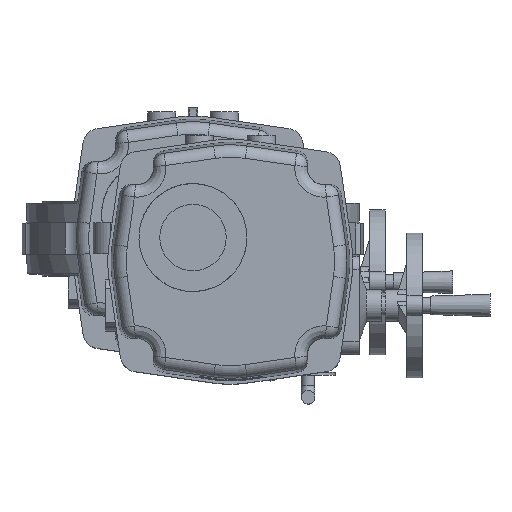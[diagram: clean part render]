
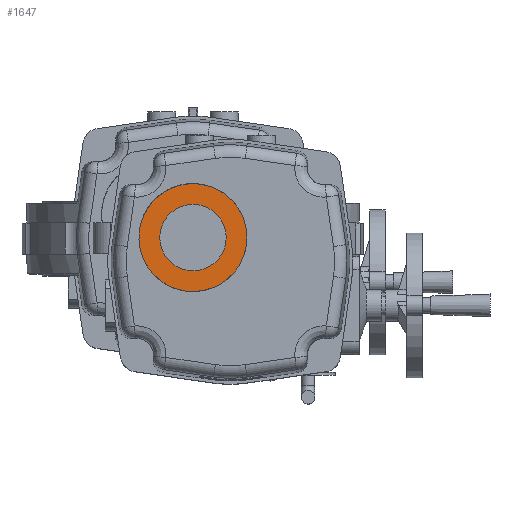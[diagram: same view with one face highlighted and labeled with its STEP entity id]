
A CAD part, top view. The second image highlights one B-rep face of the part: STEP entity #1647.
In plain terms, the highlighted planar face has unit normal (0, 0, 1).
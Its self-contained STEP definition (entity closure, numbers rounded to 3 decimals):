
#1647 = ADVANCED_FACE( '', ( #3426, #3427 ), #3428, .F. );
#3426 = FACE_BOUND( '', #9677, .T. );
#3427 = FACE_OUTER_BOUND( '', #9678, .T. );
#3428 = PLANE( '', #9679 );
#9677 = EDGE_LOOP( '', ( #14696 ) );
#9678 = EDGE_LOOP( '', ( #14697 ) );
#9679 = AXIS2_PLACEMENT_3D( '', #14698, #14699, #14700 );
#14696 = ORIENTED_EDGE( '', *, *, #16469, .T. );
#14697 = ORIENTED_EDGE( '', *, *, #15037, .F. );
#14698 = CARTESIAN_POINT( '', ( -36., 23., 165. ) );
#14699 = DIRECTION( '', ( 0., 0., -1. ) );
#14700 = DIRECTION( '', ( -1., 0., 0. ) );
#15037 = EDGE_CURVE( '', #17121, #17121, #17122, .T. );
#16469 = EDGE_CURVE( '', #19202, #19202, #19203, .T. );
#17121 = VERTEX_POINT( '', #21374 );
#17122 = CIRCLE( '', #21375, 52. );
#19202 = VERTEX_POINT( '', #29613 );
#19203 = CIRCLE( '', #29614, 32. );
#21374 = CARTESIAN_POINT( '', ( -43.473, -28.46, 165. ) );
#21375 = AXIS2_PLACEMENT_3D( '', #30631, #30632, #30633 );
#29613 = CARTESIAN_POINT( '', ( -40.599, -8.668, 165. ) );
#29614 = AXIS2_PLACEMENT_3D( '', #31861, #31862, #31863 );
#30631 = CARTESIAN_POINT( '', ( -36., 23., 165. ) );
#30632 = DIRECTION( '', ( 0., 0., -1. ) );
#30633 = DIRECTION( '', ( -0.144, -0.99, 0. ) );
#31861 = CARTESIAN_POINT( '', ( -36., 23., 165. ) );
#31862 = DIRECTION( '', ( 0., 0., -1. ) );
#31863 = DIRECTION( '', ( -0.144, -0.99, 0. ) );
